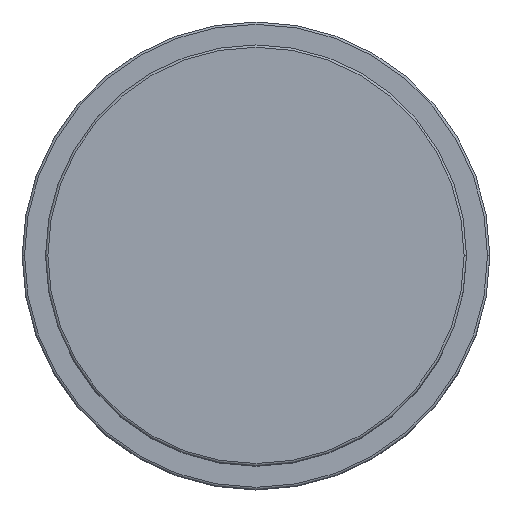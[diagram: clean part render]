
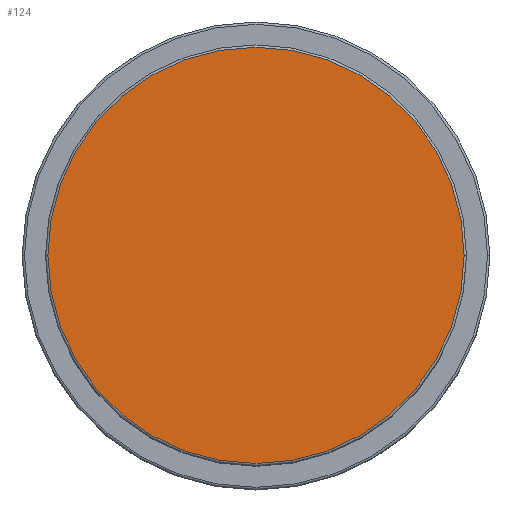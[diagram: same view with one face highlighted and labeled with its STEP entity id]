
A CAD part, top view. The second image highlights one B-rep face of the part: STEP entity #124.
In plain terms, the highlighted planar face has unit normal (0, 0, 1).
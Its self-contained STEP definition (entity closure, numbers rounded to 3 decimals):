
#15 = FACE_OUTER_BOUND ( 'NONE', #1391, .T. ) ;
#112 = AXIS2_PLACEMENT_3D ( 'NONE', #1300, #283, #291 ) ;
#124 = ADVANCED_FACE ( 'NONE', ( #15 ), #637, .T. ) ;
#217 = VERTEX_POINT ( 'NONE', #1038 ) ;
#225 = EDGE_CURVE ( 'NONE', #217, #890, #1080, .T. ) ;
#243 = AXIS2_PLACEMENT_3D ( 'NONE', #1286, #514, #1291 ) ;
#283 = DIRECTION ( 'NONE',  ( 0., 0., 1. ) ) ;
#287 = CIRCLE ( 'NONE', #243, 44.5 ) ;
#291 = DIRECTION ( 'NONE',  ( 1., 0., 0. ) ) ;
#381 = DIRECTION ( 'NONE',  ( 0., 0., 1. ) ) ;
#514 = DIRECTION ( 'NONE',  ( 0., 0., 1. ) ) ;
#637 = PLANE ( 'NONE',  #1627 ) ;
#693 = ORIENTED_EDGE ( 'NONE', *, *, #225, .T. ) ;
#696 = CARTESIAN_POINT ( 'NONE',  ( 44.5, 0., 76. ) ) ;
#713 = EDGE_CURVE ( 'NONE', #890, #217, #287, .T. ) ;
#890 = VERTEX_POINT ( 'NONE', #696 ) ;
#1038 = CARTESIAN_POINT ( 'NONE',  ( -44.5, 0., 76. ) ) ;
#1080 = CIRCLE ( 'NONE', #112, 44.5 ) ;
#1145 = CARTESIAN_POINT ( 'NONE',  ( 0., 0., 76. ) ) ;
#1147 = ORIENTED_EDGE ( 'NONE', *, *, #713, .T. ) ;
#1167 = DIRECTION ( 'NONE',  ( 1., 0., 0. ) ) ;
#1286 = CARTESIAN_POINT ( 'NONE',  ( 0., 0., 76. ) ) ;
#1291 = DIRECTION ( 'NONE',  ( 1., 0., 0. ) ) ;
#1300 = CARTESIAN_POINT ( 'NONE',  ( 0., 0., 76. ) ) ;
#1391 = EDGE_LOOP ( 'NONE', ( #1147, #693 ) ) ;
#1627 = AXIS2_PLACEMENT_3D ( 'NONE', #1145, #381, #1167 ) ;
